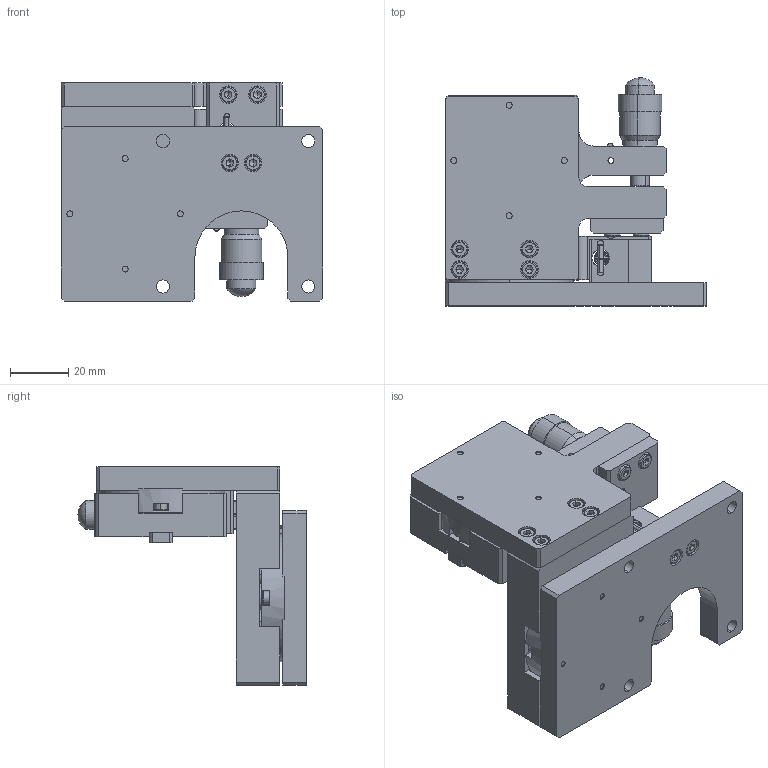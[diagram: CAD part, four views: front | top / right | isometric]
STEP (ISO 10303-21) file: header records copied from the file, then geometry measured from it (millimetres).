
FILE_DESCRIPTION (( 'STEP AP203' ), '1' );
FILE_NAME ('UFP2T-R.STEP', '2024-05-09T08:42:43', ( '' ), ( '' ), 'SwSTEP 2.0', 'SolidWorks 2021', '' );
FILE_SCHEMA (( 'CONFIG_CONTROL_DESIGN' ));
Length unit declared in the file: millimetre
Products named in the file (1): UFP2T-R
Bounding box: 90 x 78.5 x 75 mm (x, y, z)
Surface area: 52632 mm2 (no closed solid volume)
Topology: 0 solids, 56 shells, 564 faces, 1749 edges, 1173 vertices
Faces by surface type: plane 285, cylinder 184, cone 42, torus 32, bspline 13, sphere 8
Entity records: 26012 total; most frequent: CARTESIAN_POINT 10135, DIRECTION 3482, ORIENTED_EDGE 2906, EDGE_CURVE 1725, AXIS2_PLACEMENT_3D 1261, VERTEX_POINT 1173, LINE 960, VECTOR 960
